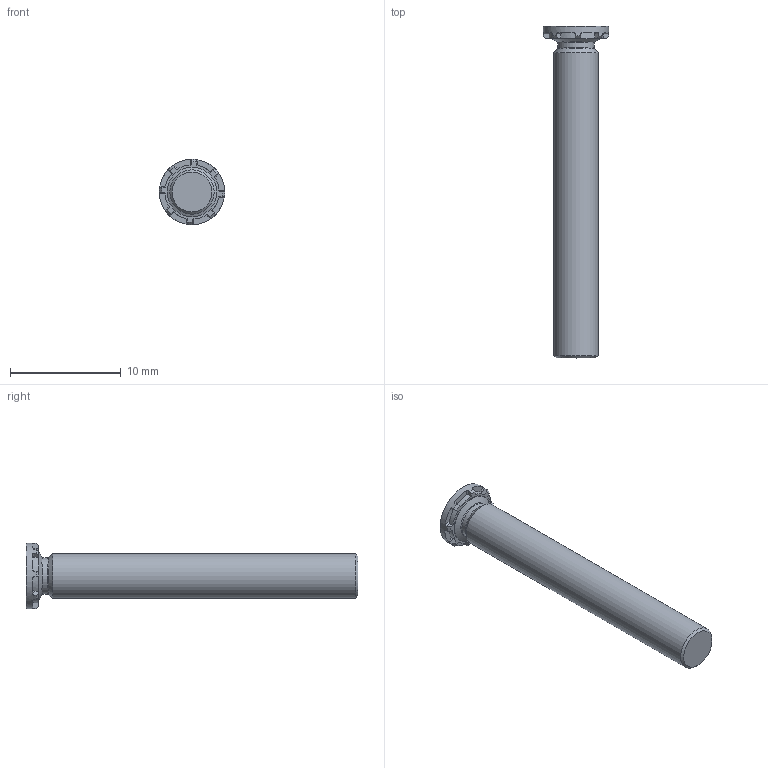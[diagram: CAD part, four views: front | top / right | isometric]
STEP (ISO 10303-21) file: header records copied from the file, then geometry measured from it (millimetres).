
FILE_DESCRIPTION(/* description */ (''),/* implementation_level */ '2;1');
FILE_NAME(/* name */ 'C:\Users\keval.kumar\Desktop\Fastit\Clinch Screw- FH Range\M4\Clinch Screw-FH Range_M4x30.stp',/* time_stamp */ '2024-03-12T11:58:12+05:00',/* author */ ('keval.kumar'),/* organization */ (''),/* preprocessor_version */ 'ST-DEVELOPER v18.1',/* originating_system */ 'Autodesk Inventor 2022',/* authorisation */ '');
FILE_SCHEMA (('AUTOMOTIVE_DESIGN { 1 0 10303 214 3 1 1 }'));
Length unit declared in the file: millimetre
Products named in the file (1): Clinch Screw-FH Range_M4x30
Bounding box: 5.9 x 30 x 5.9 mm (x, y, z)
Volume: 386.7 mm3; surface area: 438.8 mm2
Topology: 1 solids, 1 shells, 68 faces, 193 edges, 128 vertices
Faces by surface type: plane 43, cylinder 12, cone 11, torus 2
Full cylindrical faces by diameter (mm): 3.3 x1, 4 x1, 4.5 x1, 5.9 x1
Entity records: 2286 total; most frequent: DIRECTION 413, CARTESIAN_POINT 406, ORIENTED_EDGE 386, EDGE_CURVE 193, AXIS2_PLACEMENT_3D 159, VERTEX_POINT 128, LINE 95, VECTOR 95
